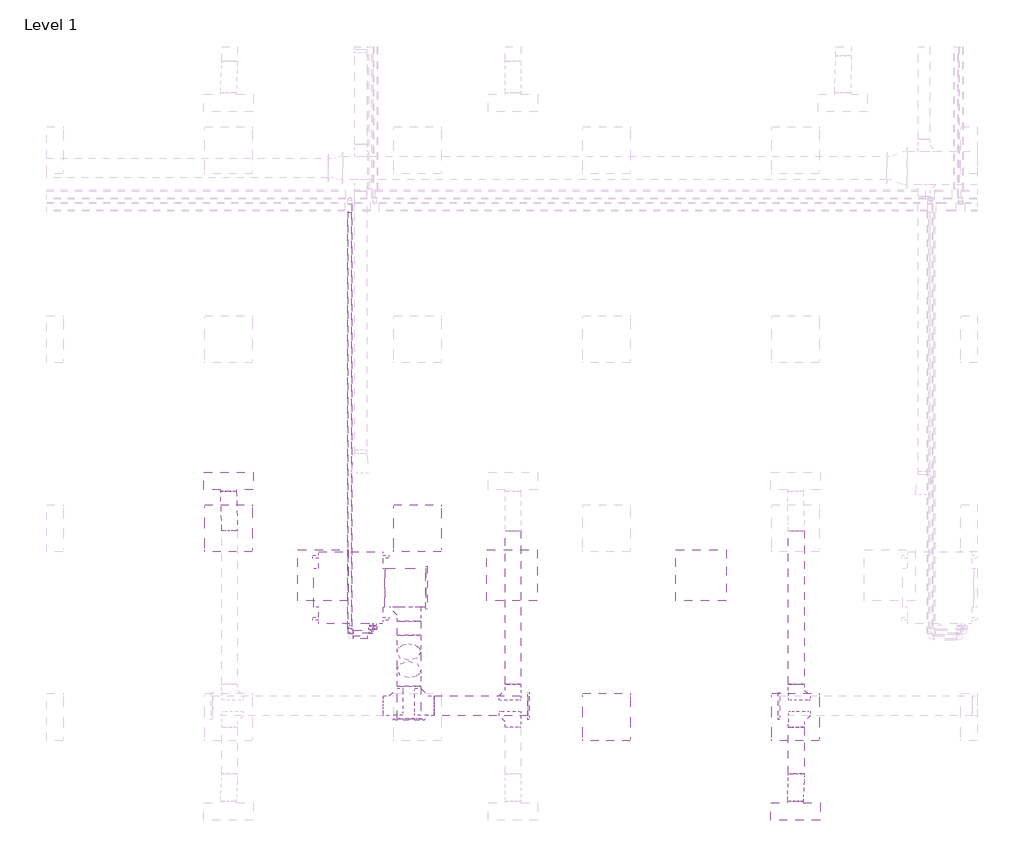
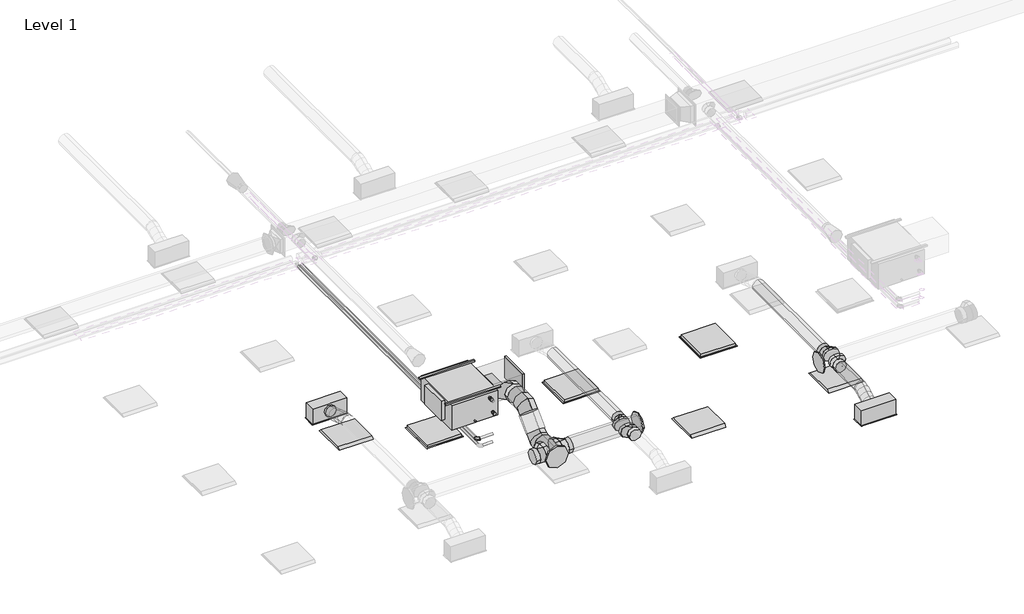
# One storey, part 7 of 30: 13 duct fittings, 10 duct segments, 6 pipe segments, 5 air terminals, 4 light fixtures, 3 pipe fittings, 1 proxy.
"""IFC4 building model written with IfcOpenShell, lengths in millimetres."""

from ifc_helpers import new_model, si_unit, point, frame, frame_2d, origin, place, context, project, spatial, polyline, circle_curve, ellipse_curve, trimmed, segment, composite_curve, outline, extrude, transform, mapped, element, save
from ifc_brep_helpers import plane_surface, cylinder_surface, advanced_brep
from components import return_grille_rectangular_hosted_standard_7b12617c, supply_diffuser_with_plenum_linear_slot_hosted_8c379eed, fan_coil_unit_ceiling_ducted_chw_376_lps_05d42c19, dw144_rectangular_blank_end_standard_8fde7d16, dw144_round_blank_end_standard_f82b0856, dw144_round_blank_end_standard_9aa061e7, dw144_round_segmented_bend_slip_joint_standard_8b80c5ae, dw144_round_shoe_branch_slip_joint1_standard_2_15a2edd8, dw144_round_shoe_branch_slip_joint1_standard_2_559552f4, dw144_round_shoe_branch_slip_joint1_standard_2_7ba9e4ed, dw144_round_shoe_branch_slip_joint1_standard_2_67b64720, light_fixture_1c7c1157, light_fixture_b730b5ca, elbow_threaded_gmi_standard_b4aa7741, socket_reducing_threaded_gmi_standard_0a4076b8

model = new_model("IFC4")

# Units and contexts
model_context = context("Model", 3, world=origin())
ifc_project = project(units=[si_unit("LENGTHUNIT", "METRE", prefix="MILLI")], contexts=[model_context])

# Site, building, storey
site = spatial("IfcSite", under=ifc_project)
building = spatial("IfcBuilding", under=site)
storey = spatial("IfcBuildingStorey", under=building, Name="Level 1", Elevation=3900.0)

# Air terminals
placement = place(None, origin())
return_grille_rectangular_hosted_standard_shape = return_grille_rectangular_hosted_standard_7b12617c(model_context)
element("IfcAirTerminal", 1, ObjectType="Return Grille - Rectangular - Hosted : Standard", at=placement, inside=storey, context=model_context, shape_type="MappedRepresentation", body=[
    mapped(return_grille_rectangular_hosted_standard_shape, transform((17562.2000027, 3963.2000004, 6700.0), x_axis=(1.0, 0.0, 0.0), y_axis=(0.0, -1.0, 0.0), z_axis=(0.0, 0.0, -1.0))),
])
element("IfcAirTerminal", 2, ObjectType="Return Grille - Rectangular - Hosted : Standard", at=placement, inside=storey, context=model_context, shape_type="MappedRepresentation", body=[
    mapped(return_grille_rectangular_hosted_standard_shape, transform((19962.2000027, 3963.2000004, 6700.0), x_axis=(1.0, 0.0, 0.0), y_axis=(0.0, -1.0, 0.0), z_axis=(0.0, 0.0, -1.0))),
])
element("IfcAirTerminal", 3, ObjectType="Return Grille - Rectangular - Hosted : Standard", at=placement, inside=storey, context=model_context, shape_type="MappedRepresentation", body=[
    mapped(return_grille_rectangular_hosted_standard_shape, transform((22362.2000027, 3963.2000004, 6700.0), x_axis=(0.0, -1.0, 0.0), y_axis=(-1.0, 0.0, 0.0), z_axis=(0.0, 0.0, -1.0))),
])
supply_diffuser_with_plenum_linear_slot_hosted_shape = supply_diffuser_with_plenum_linear_slot_hosted_8c379eed(model_context)
element("IfcAirTerminal", 4, ObjectType="Supply Diffuser with Plenum - Linear Slot - Hosted : 24\" x 8\"-200 In Inlet  4-Slot", at=placement, inside=storey, context=model_context, shape_type="MappedRepresentation", body=[
    mapped(supply_diffuser_with_plenum_linear_slot_hosted_shape, transform((23562.2000027, 963.2000004, 6700.0), x_axis=(1.0, 0.0, 0.0), y_axis=(0.0, -1.0, 0.0), z_axis=(0.0, 0.0, -1.0))),
])
element("IfcAirTerminal", 5, ObjectType="Supply Diffuser with Plenum - Linear Slot - Hosted : 24\" x 8\"-200 In Inlet  4-Slot", at=placement, inside=storey, context=model_context, shape_type="MappedRepresentation", body=[
    mapped(supply_diffuser_with_plenum_linear_slot_hosted_shape, transform((16362.2000027, 5163.2000004, 6700.0), x_axis=(-1.0, 0.0, 0.0), y_axis=(0.0, 1.0, 0.0), z_axis=(0.0, 0.0, -1.0))),
])

# Proxy
fan_coil_unit_ceiling_ducted_chw_376_lps_shape = fan_coil_unit_ceiling_ducted_chw_376_lps_05d42c19(model_context)
element("IfcBuildingElementProxy", 6, Name="Fan Coil Unit - Ceiling Ducted - CHW : 376 LPS", ObjectType="Fan Coil Unit - Ceiling Ducted - CHW : 376 LPS", at=placement, inside=storey, context=model_context, shape_type="MappedRepresentation", body=[
    mapped(fan_coil_unit_ceiling_ducted_chw_376_lps_shape, transform((18321.2561025, 4263.2000004, 7122.3911538), x_axis=(0.0, -1.0, 0.0), y_axis=(1.0, 0.0, 0.0), z_axis=(0.0, 0.0, 1.0))),
])

# Duct fittings
dw144_rectangular_blank_end_standard_shape = dw144_rectangular_blank_end_standard_8fde7d16(model_context)
element("IfcDuctFitting", 7, ObjectType="DW144 Rectangular Blank End : Standard", at=placement, inside=storey, context=model_context, shape_type="MappedRepresentation", body=[
    mapped(dw144_rectangular_blank_end_standard_shape, transform((18866.2561025, 3806.0000004, 7376.3911538), x_axis=(1.0, 0.0, 0.0), y_axis=(0.0, 1.0, 0.0), z_axis=(0.0, 0.0, 1.0))),
])
dw144_round_blank_end_standard_shape = dw144_round_blank_end_standard_f82b0856(model_context)
element("IfcDuctFitting", 8, ObjectType="DW144 Round Blank End : Standard", at=placement, inside=storey, context=model_context, shape_type="MappedRepresentation", body=[
    mapped(dw144_round_blank_end_standard_shape, transform((18651.4561025, 2142.9916128, 6972.2088531), x_axis=(0.0, -1.0, 0.0), y_axis=(1.0, 0.0, 0.0), z_axis=(0.0, 0.0, 1.0))),
])
dw144_round_blank_end_standard_2_shape = dw144_round_blank_end_standard_9aa061e7(model_context)
element("IfcDuctFitting", 9, ObjectType="DW144 Round Blank End : Standard", at=placement, inside=storey, context=model_context, shape_type="MappedRepresentation", body=[
    mapped(dw144_round_blank_end_standard_2_shape, transform((20161.4561025, 2306.5018192, 6972.2088531), x_axis=(1.0, 0.0, 0.0), y_axis=(0.0, 1.0, 0.0), z_axis=(0.0, 0.0, 1.0))),
])
element("IfcDuctFitting", 10, ObjectType="DW144 Round Blank End : Standard", at=placement, inside=storey, context=model_context, shape_type="MappedRepresentation", body=[
    mapped(dw144_round_blank_end_standard_2_shape, transform((23361.4561025, 2306.5018192, 6972.2088531), x_axis=(-1.0, 0.0, 0.0), y_axis=(0.0, -1.0, 0.0), z_axis=(0.0, 0.0, 1.0))),
])
dw144_round_segmented_bend_slip_joint_standard_shape = dw144_round_segmented_bend_slip_joint_standard_8b80c5ae(model_context)
element("IfcDuctFitting", 11, ObjectType="DW144 Round Segmented Bend - Slip Joint : Standard", at=placement, inside=storey, context=model_context, shape_type="MappedRepresentation", body=[
    mapped(dw144_round_segmented_bend_slip_joint_standard_shape, transform((18651.4561025, 2678.6338536, 6972.2088531), x_axis=(0.0, -0.7071067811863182, -0.7071067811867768), y_axis=(0.0, 0.7071067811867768, -0.7071067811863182), z_axis=(1.0, 0.0, 0.0))),
])
element("IfcDuctFitting", 12, ObjectType="DW144 Round Segmented Bend - Slip Joint : Standard", at=placement, inside=storey, context=model_context, shape_type="MappedRepresentation", body=[
    mapped(dw144_round_segmented_bend_slip_joint_standard_shape, transform((18651.4561025, 3076.0000004, 7369.575), x_axis=(0.0, -1.0, 0.0), y_axis=(0.0, 0.0, 1.0), z_axis=(-1.0, 0.0, 0.0))),
])
dw144_round_shoe_branch_slip_joint1_standard_2_shape = dw144_round_shoe_branch_slip_joint1_standard_2_15a2edd8(model_context)
element("IfcDuctFitting", 13, ObjectType="DW144 Round Shoe Branch - Slip Joint1 : Standard 2", at=placement, inside=storey, context=model_context, shape_type="MappedRepresentation", body=[
    mapped(dw144_round_shoe_branch_slip_joint1_standard_2_shape, transform((23573.9000022, 2181.5018192, 6972.2088531), x_axis=(0.0, -1.0, 0.0), y_axis=(-1.0, 0.0, 0.0), z_axis=(0.0, 0.0, -1.0))),
])
element("IfcDuctFitting", 14, ObjectType="DW144 Round Shoe Branch - Slip Joint1 : Standard 2", at=placement, inside=storey, context=model_context, shape_type="MappedRepresentation", body=[
    mapped(dw144_round_shoe_branch_slip_joint1_standard_2_shape, transform((23573.9000022, 2431.5018192, 6972.2088531), x_axis=(0.0, 1.0, 0.0), y_axis=(-1.0, 0.0, 0.0), z_axis=(0.0, 0.0, 1.0))),
])
dw144_round_shoe_branch_slip_joint1_standard_2_2_shape = dw144_round_shoe_branch_slip_joint1_standard_2_559552f4(model_context)
element("IfcDuctFitting", 15, ObjectType="DW144 Round Shoe Branch - Slip Joint1 : Standard 2", at=placement, inside=storey, context=model_context, shape_type="MappedRepresentation", body=[
    mapped(dw144_round_shoe_branch_slip_joint1_standard_2_2_shape, transform((19973.9000022, 2181.5018192, 6972.2088531), x_axis=(0.0, -1.0, 0.0), y_axis=(-1.0, 0.0, 0.0), z_axis=(0.0, 0.0, -1.0))),
])
element("IfcDuctFitting", 16, ObjectType="DW144 Round Shoe Branch - Slip Joint1 : Standard 2", at=placement, inside=storey, context=model_context, shape_type="MappedRepresentation", body=[
    mapped(dw144_round_shoe_branch_slip_joint1_standard_2_2_shape, transform((19973.9000022, 2431.5018192, 6972.2088531), x_axis=(0.0, 1.0, 0.0), y_axis=(-1.0, 0.0, 0.0), z_axis=(0.0, 0.0, 1.0))),
])
dw144_round_shoe_branch_slip_joint1_standard_2_3_shape = dw144_round_shoe_branch_slip_joint1_standard_2_7ba9e4ed(model_context)
element("IfcDuctFitting", 17, ObjectType="DW144 Round Shoe Branch - Slip Joint1 : Standard 2", at=placement, inside=storey, context=model_context, shape_type="MappedRepresentation", body=[
    mapped(dw144_round_shoe_branch_slip_joint1_standard_2_3_shape, transform((18651.4561025, 3556.0000004, 7369.575), x_axis=(0.0, -1.0, 0.0), y_axis=(-1.0, 0.0, 0.0), z_axis=(0.0, 0.0, -1.0))),
])
dw144_round_shoe_branch_slip_joint1_standard_2_4_shape = dw144_round_shoe_branch_slip_joint1_standard_2_67b64720(model_context)
element("IfcDuctFitting", 18, ObjectType="DW144 Round Shoe Branch - Slip Joint1 : Standard 2", at=placement, inside=storey, context=model_context, shape_type="MappedRepresentation", body=[
    mapped(dw144_round_shoe_branch_slip_joint1_standard_2_4_shape, transform((18801.4561025, 2306.5018192, 6972.2088531), x_axis=(1.0, 0.0, 0.0), y_axis=(0.0, -1.0, 0.0), z_axis=(0.0, 0.0, -1.0))),
])
element("IfcDuctFitting", 19, ObjectType="DW144 Round Shoe Branch - Slip Joint1 : Standard 2", at=placement, inside=storey, context=model_context, shape_type="MappedRepresentation", body=[
    mapped(dw144_round_shoe_branch_slip_joint1_standard_2_4_shape, transform((18501.4561025, 2306.5018192, 6972.2088531), x_axis=(-1.0, 0.0, 0.0), y_axis=(0.0, -1.0, 0.0), z_axis=(0.0, 0.0, 1.0))),
])

# Duct segments
element("IfcDuctSegment", 20, ObjectType="DW144 Flanged Med Radius Bend / Shoe Branch", at=placement, inside=storey, context=model_context, shape_type="SweptSolid", body=[
    extrude(outline(polyline([(18346.6561025, 3556.0000004), (18346.6561025, 4056.0000004), (18866.2561025, 4056.0000004), (18866.2561025, 3556.0000004), (18346.6561025, 3556.0000004)])), frame((0.0, 0.0, 7201.3911538), z_axis=(0.0, 0.0, 1.0), x_axis=(1.0, 0.0, 0.0)), (0.0, 0.0, 1.0), 350.0),
])
element("IfcDuctSegment", 21, ObjectType="DW144 Segmented Bend / Shoe Branch", at=placement, inside=storey, context=model_context, shape_type="SweptSolid", body=[
    extrude(outline(composite_curve([segment(trimmed(circle_curve(frame_2d((7369.575, 18651.4561025)), 150.0), [point((7369.575, 18501.4561025))], [point((7219.575, 18651.4561025))], False, "CARTESIAN"), True, "CONTINUOUS"), segment(trimmed(circle_curve(frame_2d((7369.575, 18651.4561025)), 150.0), [point((7219.575, 18651.4561025))], [point((7369.575, 18801.4561025))], False, "CARTESIAN"), True, "CONTINUOUS"), segment(trimmed(circle_curve(frame_2d((7369.575, 18651.4561025)), 150.0), [point((7369.575, 18801.4561025))], [point((7519.575, 18651.4561025))], False, "CARTESIAN"), True, "CONTINUOUS"), segment(trimmed(circle_curve(frame_2d((7369.575, 18651.4561025)), 150.0), [point((7519.575, 18651.4561025))], [point((7369.575, 18501.4561025))], False, "CARTESIAN"), True, "CONTINUOUS")], self_intersect=False)), frame((0.0, 3200.2640691, 0.0), z_axis=(0.0, 1.0, 0.0), x_axis=(0.0, 0.0, 1.0)), (0.0, 0.0, 1.0), 180.7359313),
])
element("IfcDuctSegment", 22, ObjectType="DW144 Segmented Bend / Shoe Branch", at=placement, inside=storey, context=model_context, shape_type="SweptSolid", body=[
    extrude(outline(composite_curve([segment(trimmed(circle_curve(frame_2d((6972.2088531, 18651.4561025)), 150.0), [point((6972.2088531, 18501.4561025))], [point((6822.2088531, 18651.4561025))], False, "CARTESIAN"), True, "CONTINUOUS"), segment(trimmed(circle_curve(frame_2d((6972.2088531, 18651.4561025)), 150.0), [point((6822.2088531, 18651.4561025))], [point((6972.2088531, 18801.4561025))], False, "CARTESIAN"), True, "CONTINUOUS"), segment(trimmed(circle_curve(frame_2d((6972.2088531, 18651.4561025)), 150.0), [point((6972.2088531, 18801.4561025))], [point((7122.2088531, 18651.4561025))], False, "CARTESIAN"), True, "CONTINUOUS"), segment(trimmed(circle_curve(frame_2d((6972.2088531, 18651.4561025)), 150.0), [point((7122.2088531, 18651.4561025))], [point((6972.2088531, 18501.4561025))], False, "CARTESIAN"), True, "CONTINUOUS")], self_intersect=False)), frame((0.0, 2142.9916128, 0.0), z_axis=(0.0, 1.0, 0.0), x_axis=(0.0, 0.0, 1.0)), (0.0, 0.0, 1.0), 411.3781721),
])
element("IfcDuctSegment", 23, ObjectType="DW144 Segmented Bend / Shoe Branch", at=placement, inside=storey, context=model_context, shape_type="SweptSolid", body=[
    extrude(outline(composite_curve([segment(trimmed(circle_curve(frame_2d((0.0, -150.0)), 150.0), [point((-150.0, -150.0))], [point((0.0, 0.0))], False, "CARTESIAN"), True, "CONTINUOUS"), segment(trimmed(circle_curve(frame_2d((0.0, -150.0)), 150.0), [point((0.0, 0.0))], [point((150.0, -150.0))], False, "CARTESIAN"), True, "CONTINUOUS"), segment(trimmed(circle_curve(frame_2d((0.0, -150.0)), 150.0), [point((150.0, -150.0))], [point((0.0, -300.0))], False, "CARTESIAN"), True, "CONTINUOUS"), segment(trimmed(circle_curve(frame_2d((0.0, -150.0)), 150.0), [point((0.0, -300.0))], [point((-150.0, -150.0))], False, "CARTESIAN"), True, "CONTINUOUS")], self_intersect=False)), frame((18651.4561025, 2872.5678364, 6954.0108016), z_axis=(0.0, 0.7071067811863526, 0.7071067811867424), x_axis=(1.0, 0.0, 0.0)), (0.0, 0.0, 1.0), 313.4324567),
])
element("IfcDuctSegment", 24, ObjectType="DW144 Segmented Bend / Shoe Branch", at=placement, inside=storey, context=model_context, shape_type="SweptSolid", body=[
    extrude(outline(composite_curve([segment(trimmed(circle_curve(frame_2d((2306.5018192, 6972.2088531)), 125.0), [point((2181.5018192, 6972.2088531))], [point((2306.5018192, 7097.2088531))], False, "CARTESIAN"), True, "CONTINUOUS"), segment(trimmed(circle_curve(frame_2d((2306.5018192, 6972.2088531)), 125.0), [point((2306.5018192, 7097.2088531))], [point((2431.5018192, 6972.2088531))], False, "CARTESIAN"), True, "CONTINUOUS"), segment(trimmed(circle_curve(frame_2d((2306.5018192, 6972.2088531)), 125.0), [point((2431.5018192, 6972.2088531))], [point((2306.5018192, 6847.2088531))], False, "CARTESIAN"), True, "CONTINUOUS"), segment(trimmed(circle_curve(frame_2d((2306.5018192, 6972.2088531)), 125.0), [point((2306.5018192, 6847.2088531))], [point((2181.5018192, 6972.2088531))], False, "CARTESIAN"), True, "CONTINUOUS")], self_intersect=False)), frame((18976.4561025, 0.0, 0.0), z_axis=(1.0, 0.0, 0.0), x_axis=(0.0, 1.0, 0.0)), (0.0, 0.0, 1.0), 1185.0),
])
element("IfcDuctSegment", 25, ObjectType="DW144 Segmented Bend / Shoe Branch", at=placement, inside=storey, context=model_context, shape_type="SweptSolid", body=[
    extrude(outline(composite_curve([segment(trimmed(circle_curve(frame_2d((6972.2088531, 19973.9000022)), 100.0), [point((6972.2088531, 20073.9000022))], [point((7072.2088531, 19973.9000022))], False, "CARTESIAN"), True, "CONTINUOUS"), segment(trimmed(circle_curve(frame_2d((6972.2088531, 19973.9000022)), 100.0), [point((7072.2088531, 19973.9000022))], [point((6972.2088531, 19873.9000022))], False, "CARTESIAN"), True, "CONTINUOUS"), segment(trimmed(circle_curve(frame_2d((6972.2088531, 19973.9000022)), 100.0), [point((6972.2088531, 19873.9000022))], [point((6872.2088531, 19973.9000022))], False, "CARTESIAN"), True, "CONTINUOUS"), segment(trimmed(circle_curve(frame_2d((6972.2088531, 19973.9000022)), 100.0), [point((6872.2088531, 19973.9000022))], [point((6972.2088531, 20073.9000022))], False, "CARTESIAN"), True, "CONTINUOUS")], self_intersect=False)), frame((0.0, 2581.5018192, 0.0), z_axis=(0.0, 1.0, 0.0), x_axis=(0.0, 0.0, 1.0)), (0.0, 0.0, 1.0), 1950.0),
])
element("IfcDuctSegment", 26, ObjectType="DW144 Segmented Bend / Shoe Branch", at=placement, inside=storey, context=model_context, shape_type="SweptSolid", body=[
    extrude(outline(composite_curve([segment(trimmed(circle_curve(frame_2d((6972.2088531, 23573.9000022)), 100.0), [point((6972.2088531, 23673.9000022))], [point((7072.2088531, 23573.9000022))], False, "CARTESIAN"), True, "CONTINUOUS"), segment(trimmed(circle_curve(frame_2d((6972.2088531, 23573.9000022)), 100.0), [point((7072.2088531, 23573.9000022))], [point((6972.2088531, 23473.9000022))], False, "CARTESIAN"), True, "CONTINUOUS"), segment(trimmed(circle_curve(frame_2d((6972.2088531, 23573.9000022)), 100.0), [point((6972.2088531, 23473.9000022))], [point((6872.2088531, 23573.9000022))], False, "CARTESIAN"), True, "CONTINUOUS"), segment(trimmed(circle_curve(frame_2d((6972.2088531, 23573.9000022)), 100.0), [point((6872.2088531, 23573.9000022))], [point((6972.2088531, 23673.9000022))], False, "CARTESIAN"), True, "CONTINUOUS")], self_intersect=False)), frame((0.0, 1441.5018192, 0.0), z_axis=(0.0, 1.0, 0.0), x_axis=(0.0, 0.0, 1.0)), (0.0, 0.0, 1.0), 590.0),
])
element("IfcDuctSegment", 27, ObjectType="DW144 Segmented Bend / Shoe Branch", at=placement, inside=storey, context=model_context, shape_type="SweptSolid", body=[
    extrude(outline(composite_curve([segment(trimmed(circle_curve(frame_2d((6972.2088531, 23573.9000022)), 100.0), [point((6972.2088531, 23673.9000022))], [point((7072.2088531, 23573.9000022))], False, "CARTESIAN"), True, "CONTINUOUS"), segment(trimmed(circle_curve(frame_2d((6972.2088531, 23573.9000022)), 100.0), [point((7072.2088531, 23573.9000022))], [point((6972.2088531, 23473.9000022))], False, "CARTESIAN"), True, "CONTINUOUS"), segment(trimmed(circle_curve(frame_2d((6972.2088531, 23573.9000022)), 100.0), [point((6972.2088531, 23473.9000022))], [point((6872.2088531, 23573.9000022))], False, "CARTESIAN"), True, "CONTINUOUS"), segment(trimmed(circle_curve(frame_2d((6972.2088531, 23573.9000022)), 100.0), [point((6872.2088531, 23573.9000022))], [point((6972.2088531, 23673.9000022))], False, "CARTESIAN"), True, "CONTINUOUS")], self_intersect=False)), frame((0.0, 2581.5018192, 0.0), z_axis=(0.0, 1.0, 0.0), x_axis=(0.0, 0.0, 1.0)), (0.0, 0.0, 1.0), 1950.0),
])
element("IfcDuctSegment", 28, ObjectType="Flex - Round", at=placement, inside=storey, context=model_context, shape_type="AdvancedBrep", body=[
    advanced_brep(
    [(16273.9000022, 4531.5018192, 6972.2088531), (16373.9000022, 4531.5018192, 6872.2088531), (16473.9000022, 4531.5018192, 6972.2088531), (16373.9000022, 4531.5018192, 7072.2088531), (16273.9000022, 4545.0398748, 6972.2088531), (16373.9000022, 4537.729612, 6872.2088531), (16473.9000022, 4546.6519942, 6972.2088531), (16373.9000022, 4553.962257, 7072.2088531), (16262.2000027, 5034.3000004, 6854.4), (16362.2000027, 5034.3000004, 6954.4), (16462.2000027, 5034.3000004, 6854.4), (16362.2000027, 5034.3000004, 6754.4), (16272.0969471, 4656.1396088, 6954.0536514), (16372.3243089, 4634.8198875, 6856.3429867), (16472.0468075, 4660.8412095, 6953.5487883), (16371.8194457, 4682.1609309, 7051.2594529), (16268.0984043, 4779.8283707, 6913.7917909), (16368.5373668, 4751.9631047, 6818.2117629), (16468.0016006, 4785.9734489, 6912.8170622), (16367.5626381, 4813.8387149, 7008.3970903), (16264.0531974, 4904.9606101, 6873.0600649), (16364.2805591, 4883.6408888, 6775.3494002), (16464.0030578, 4909.6622108, 6872.5552017), (16363.775696, 4930.9819322, 6970.2658664), (16262.2000027, 5019.1498254, 6854.4), (16362.2000027, 5011.8395627, 6754.4), (16462.2000027, 5020.7619448, 6854.4), (16362.2000027, 5028.0722076, 6954.4)],
    [
        (0, 1, circle_curve(frame((16373.9000022, 4531.5018192, 6972.2088531), z_axis=(0.0, -1.0, 0.0), x_axis=(-1.0, 0.0, 0.0)), 100.0)),
        (1, 2, circle_curve(frame((16373.9000022, 4531.5018192, 6972.2088531), z_axis=(0.0, -1.0, 0.0), x_axis=(-1.0, 0.0, 0.0)), 100.0)),
        (2, 3, circle_curve(frame((16373.9000022, 4531.5018192, 6972.2088531), z_axis=(0.0, -1.0, 0.0), x_axis=(-1.0, 0.0, 0.0)), 100.0)),
        (3, 0, circle_curve(frame((16373.9000022, 4531.5018192, 6972.2088531), z_axis=(0.0, -1.0, 0.0), x_axis=(-1.0, 0.0, 0.0)), 100.0)),
        (0, 4),
        (4, 5, ellipse_curve(frame((16373.9000022, 4545.8459345, 6972.2088531), z_axis=(0.008033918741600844, -0.9966902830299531, 0.08089459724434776), x_axis=(-0.09850014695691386, -0.08129255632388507, -0.9918110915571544)), 100.3320708, 100.0)),
        (5, 1),
        (5, 6, ellipse_curve(frame((16373.9000022, 4545.8459345, 6972.2088531), z_axis=(0.008033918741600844, -0.9966902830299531, 0.08089459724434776), x_axis=(-0.09850014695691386, -0.08129255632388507, -0.9918110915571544)), 100.3320708, 100.0)),
        (6, 2),
        (6, 7, ellipse_curve(frame((16373.9000022, 4545.8459345, 6972.2088531), z_axis=(0.008033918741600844, -0.9966902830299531, 0.08089459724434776), x_axis=(-0.09850014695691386, -0.08129255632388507, -0.9918110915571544)), 100.3320708, 100.0)),
        (7, 3),
        (7, 4, ellipse_curve(frame((16373.9000022, 4545.8459345, 6972.2088531), z_axis=(0.008033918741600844, -0.9966902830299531, 0.08089459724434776), x_axis=(-0.09850014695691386, -0.08129255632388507, -0.9918110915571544)), 100.3320708, 100.0)),
        (8, 9, circle_curve(frame((16362.2000027, 5034.3000004, 6854.4), z_axis=(0.0, 1.0, 0.0), x_axis=(-1.0, 0.0, 0.0)), 100.0)),
        (9, 10, circle_curve(frame((16362.2000027, 5034.3000004, 6854.4), z_axis=(0.0, 1.0, 0.0), x_axis=(-1.0, 0.0, 0.0)), 100.0)),
        (10, 11, circle_curve(frame((16362.2000027, 5034.3000004, 6854.4), z_axis=(0.0, 1.0, 0.0), x_axis=(-1.0, 0.0, 0.0)), 100.0)),
        (11, 8, circle_curve(frame((16362.2000027, 5034.3000004, 6854.4), z_axis=(0.0, 1.0, 0.0), x_axis=(-1.0, 0.0, 0.0)), 100.0)),
        (4, 12),
        (12, 13, ellipse_curve(frame((16372.0718773, 4658.4904092, 6953.8012198), z_axis=(0.023438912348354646, -0.9714680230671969, 0.2360095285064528), x_axis=(-0.09600750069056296, -0.23717057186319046, -0.9667123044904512)), 100.2947714, 100.0)),
        (13, 5),
        (13, 14, ellipse_curve(frame((16372.0718773, 4658.4904092, 6953.8012198), z_axis=(0.023438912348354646, -0.9714680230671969, 0.2360095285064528), x_axis=(-0.09600750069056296, -0.23717057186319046, -0.9667123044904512)), 100.2947714, 100.0)),
        (14, 6),
        (14, 15, ellipse_curve(frame((16372.0718773, 4658.4904092, 6953.8012198), z_axis=(0.023438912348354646, -0.9714680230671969, 0.2360095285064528), x_axis=(-0.09600750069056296, -0.23717057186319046, -0.9667123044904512)), 100.2947714, 100.0)),
        (15, 7),
        (15, 12, ellipse_curve(frame((16372.0718773, 4658.4904092, 6953.8012198), z_axis=(0.023438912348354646, -0.9714680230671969, 0.2360095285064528), x_axis=(-0.09600750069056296, -0.23717057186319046, -0.9667123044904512)), 100.2947714, 100.0)),
        (12, 16),
        (16, 17, circle_curve(frame((16368.0500024, 4782.9009098, 6913.3044266), z_axis=(0.03072539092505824, -0.9504426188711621, 0.30937805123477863), x_axis=(-0.999515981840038, -0.030725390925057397, 0.004873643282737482)), 100.0)),
        (17, 13),
        (17, 18, circle_curve(frame((16368.0500024, 4782.9009098, 6913.3044266), z_axis=(0.03072539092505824, -0.9504426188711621, 0.30937805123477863), x_axis=(-0.999515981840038, -0.030725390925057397, 0.004873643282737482)), 100.0)),
        (18, 14),
        (18, 19, circle_curve(frame((16368.0500024, 4782.9009098, 6913.3044266), z_axis=(0.03072539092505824, -0.9504426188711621, 0.30937805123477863), x_axis=(-0.999515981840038, -0.030725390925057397, 0.004873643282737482)), 100.0)),
        (19, 15),
        (19, 16, circle_curve(frame((16368.0500024, 4782.9009098, 6913.3044266), z_axis=(0.03072539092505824, -0.9504426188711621, 0.30937805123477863), x_axis=(-0.999515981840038, -0.030725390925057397, 0.004873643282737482)), 100.0)),
        (16, 20),
        (20, 21, ellipse_curve(frame((16364.0281276, 4907.3114105, 6872.8076333), z_axis=(0.023438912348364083, -0.9714680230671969, 0.23600952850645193), x_axis=(0.0960075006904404, 0.23717057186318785, 0.966712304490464)), 100.2947714, 100.0)),
        (21, 17),
        (21, 22, ellipse_curve(frame((16364.0281276, 4907.3114105, 6872.8076333), z_axis=(0.023438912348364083, -0.9714680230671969, 0.23600952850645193), x_axis=(0.0960075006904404, 0.23717057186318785, 0.966712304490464)), 100.2947714, 100.0)),
        (22, 18),
        (22, 23, ellipse_curve(frame((16364.0281276, 4907.3114105, 6872.8076333), z_axis=(0.023438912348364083, -0.9714680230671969, 0.23600952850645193), x_axis=(0.0960075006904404, 0.23717057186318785, 0.966712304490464)), 100.2947714, 100.0)),
        (23, 19),
        (23, 20, ellipse_curve(frame((16364.0281276, 4907.3114105, 6872.8076333), z_axis=(0.023438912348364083, -0.9714680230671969, 0.23600952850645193), x_axis=(0.0960075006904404, 0.23717057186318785, 0.966712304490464)), 100.2947714, 100.0)),
        (20, 24),
        (24, 25, ellipse_curve(frame((16362.2000027, 5019.9558851, 6854.4), z_axis=(0.008033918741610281, -0.9966902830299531, 0.08089459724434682), x_axis=(0.09850014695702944, 0.0812925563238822, 0.9918110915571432)), 100.3320708, 100.0)),
        (25, 21),
        (25, 26, ellipse_curve(frame((16362.2000027, 5019.9558851, 6854.4), z_axis=(0.008033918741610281, -0.9966902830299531, 0.08089459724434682), x_axis=(0.09850014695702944, 0.0812925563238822, 0.9918110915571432)), 100.3320708, 100.0)),
        (26, 22),
        (26, 27, ellipse_curve(frame((16362.2000027, 5019.9558851, 6854.4), z_axis=(0.008033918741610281, -0.9966902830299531, 0.08089459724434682), x_axis=(0.09850014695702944, 0.0812925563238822, 0.9918110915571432)), 100.3320708, 100.0)),
        (27, 23),
        (27, 24, ellipse_curve(frame((16362.2000027, 5019.9558851, 6854.4), z_axis=(0.008033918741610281, -0.9966902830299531, 0.08089459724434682), x_axis=(0.09850014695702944, 0.0812925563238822, 0.9918110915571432)), 100.3320708, 100.0)),
        (24, 8),
        (11, 25),
        (10, 26),
        (9, 27),
    ],
    [
        plane_surface(frame((16273.9000022, 4531.5018192, 6972.2088531), z_axis=(0.0, -1.0, 0.0), x_axis=(0.0, 0.0, 1.0))),
        cylinder_surface(frame((16373.9000022, 4531.5018192, 6972.2088531), z_axis=(0.0, -1.0, 0.0), x_axis=(-1.0, 0.0, 0.0)), 100.0),
        plane_surface(frame((16262.2000027, 5034.3000004, 6854.4), z_axis=(0.0, 1.0, 0.0), x_axis=(0.0, 0.0, 1.0))),
        cylinder_surface(frame((16373.9000022, 4545.8459345, 6972.2088531), z_axis=(0.01601465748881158, -0.9867830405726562, 0.16125371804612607), x_axis=(-0.9998709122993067, -0.01601465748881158, 0.0012998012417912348)), 100.0),
        cylinder_surface(frame((16372.0718773, 4658.4904092, 6953.8012198), z_axis=(0.03072539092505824, -0.9504426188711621, 0.30937805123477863), x_axis=(-0.999515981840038, -0.030725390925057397, 0.004873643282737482)), 100.0),
        cylinder_surface(frame((16368.0500024, 4782.9009098, 6913.3044266), z_axis=(0.030725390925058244, -0.9504426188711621, 0.30937805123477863), x_axis=(-0.999515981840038, -0.0307253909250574, 0.0048736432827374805)), 100.0),
        cylinder_surface(frame((16364.0281276, 4907.3114105, 6872.8076333), z_axis=(0.016014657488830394, -0.9867830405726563, 0.16125371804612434), x_axis=(-0.9998709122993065, -0.016014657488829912, 0.0012998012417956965)), 100.0),
        cylinder_surface(frame((16362.2000027, 5019.9558851, 6854.4), z_axis=(0.0, -1.0, 0.0), x_axis=(-1.0, 0.0, 0.0)), 100.0),
    ],
    [
        (0, [[1, 2, 3, 4]]),
        (1, [[-1, 5, 6, 7]]),
        (1, [[-2, -7, 8, 9]]),
        (1, [[-3, -9, 10, 11]]),
        (1, [[-4, -11, 12, -5]]),
        (2, [[13, 14, 15, 16]]),
        (3, [[-6, 17, 18, 19]]),
        (3, [[-8, -19, 20, 21]]),
        (3, [[-10, -21, 22, 23]]),
        (3, [[-12, -23, 24, -17]]),
        (4, [[-18, 25, 26, 27]]),
        (4, [[-20, -27, 28, 29]]),
        (4, [[-22, -29, 30, 31]]),
        (4, [[-24, -31, 32, -25]]),
        (5, [[-26, 33, 34, 35]]),
        (5, [[-28, -35, 36, 37]]),
        (5, [[-30, -37, 38, 39]]),
        (5, [[-32, -39, 40, -33]]),
        (6, [[-34, 41, 42, 43]]),
        (6, [[-36, -43, 44, 45]]),
        (6, [[-38, -45, 46, 47]]),
        (6, [[-40, -47, 48, -41]]),
        (7, [[-42, 49, -16, 50]]),
        (7, [[-44, -50, -15, 51]]),
        (7, [[-46, -51, -14, 52]]),
        (7, [[-48, -52, -13, -49]]),
    ],
),
])
element("IfcDuctSegment", 29, ObjectType="Flex - Round", at=placement, inside=storey, context=model_context, shape_type="AdvancedBrep", body=[
    advanced_brep(
    [(23673.9000022, 1441.5018192, 6972.2088531), (23573.9000022, 1441.5018192, 6872.2088531), (23473.9000022, 1441.5018192, 6972.2088531), (23573.9000022, 1441.5018192, 7072.2088531), (23673.9000022, 1419.9886644, 6972.2088531), (23573.9000022, 1434.4041273, 6872.2088531), (23473.9000022, 1422.5932881, 6972.2088531), (23573.9000022, 1408.1778252, 7072.2088531), (23662.2000027, 1092.1000004, 6854.4), (23562.2000027, 1092.1000004, 6954.4), (23462.2000027, 1092.1000004, 6854.4), (23562.2000027, 1092.1000004, 6754.4), (23672.0154345, 1348.8904029, 6953.2328893), (23572.6402079, 1386.8764181, 6859.5238159), (23472.1283201, 1355.7538157, 6954.3695504), (23571.5035467, 1317.7678004, 7048.0786237), (23667.9552415, 1262.5544078, 6912.3502664), (23569.0041626, 1309.5595036, 6822.9119919), (23468.1447633, 1271.0474118, 6914.2585867), (23567.0958423, 1224.0423161, 7003.6968612), (23663.9716847, 1177.8480039, 6872.2393027), (23564.5964582, 1215.8340192, 6778.5302294), (23464.0845704, 1184.7114168, 6873.3759639), (23563.459797, 1146.7254015, 6967.0850372), (23662.2000027, 1111.0085316, 6854.4), (23562.2000027, 1125.4239944, 6754.4), (23462.2000027, 1113.6131552, 6854.4), (23562.2000027, 1099.1976924, 6954.4)],
    [
        (0, 1, circle_curve(frame((23573.9000022, 1441.5018192, 6972.2088531), z_axis=(0.0, 1.0, 0.0), x_axis=(1.0, 0.0, 0.0)), 100.0)),
        (1, 2, circle_curve(frame((23573.9000022, 1441.5018192, 6972.2088531), z_axis=(0.0, 1.0, 0.0), x_axis=(1.0, 0.0, 0.0)), 100.0)),
        (2, 3, circle_curve(frame((23573.9000022, 1441.5018192, 6972.2088531), z_axis=(0.0, 1.0, 0.0), x_axis=(1.0, 0.0, 0.0)), 100.0)),
        (3, 0, circle_curve(frame((23573.9000022, 1441.5018192, 6972.2088531), z_axis=(0.0, 1.0, 0.0), x_axis=(1.0, 0.0, 0.0)), 100.0)),
        (0, 4),
        (4, 5, ellipse_curve(frame((23573.9000022, 1421.2909763, 6972.2088531), z_axis=(0.012911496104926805, 0.991428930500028, 0.13000757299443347), x_axis=(-0.0979801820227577, 0.13064714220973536, -0.986575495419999)), 100.8645168, 100.0)),
        (5, 1),
        (5, 6, ellipse_curve(frame((23573.9000022, 1421.2909763, 6972.2088531), z_axis=(0.012911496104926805, 0.991428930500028, 0.13000757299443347), x_axis=(-0.0979801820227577, 0.13064714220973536, -0.986575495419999)), 100.8645168, 100.0)),
        (6, 2),
        (6, 7, ellipse_curve(frame((23573.9000022, 1421.2909763, 6972.2088531), z_axis=(0.012911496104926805, 0.991428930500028, 0.13000757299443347), x_axis=(-0.0979801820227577, 0.13064714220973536, -0.986575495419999)), 100.8645168, 100.0)),
        (7, 3),
        (7, 4, ellipse_curve(frame((23573.9000022, 1421.2909763, 6972.2088531), z_axis=(0.012911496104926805, 0.991428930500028, 0.13000757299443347), x_axis=(-0.0979801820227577, 0.13064714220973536, -0.986575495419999)), 100.8645168, 100.0)),
        (8, 9, circle_curve(frame((23562.2000027, 1092.1000004, 6854.4), z_axis=(0.0, -1.0, 0.0), x_axis=(1.0, 0.0, 0.0)), 100.0)),
        (9, 10, circle_curve(frame((23562.2000027, 1092.1000004, 6854.4), z_axis=(0.0, -1.0, 0.0), x_axis=(1.0, 0.0, 0.0)), 100.0)),
        (10, 11, circle_curve(frame((23562.2000027, 1092.1000004, 6854.4), z_axis=(0.0, -1.0, 0.0), x_axis=(1.0, 0.0, 0.0)), 100.0)),
        (11, 8, circle_curve(frame((23562.2000027, 1092.1000004, 6854.4), z_axis=(0.0, -1.0, 0.0), x_axis=(1.0, 0.0, 0.0)), 100.0)),
        (4, 12),
        (12, 13, ellipse_curve(frame((23572.0718773, 1352.3221093, 6953.8012198), z_axis=(0.03417490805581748, 0.9383065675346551, 0.34411169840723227), x_axis=(-0.09273024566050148, 0.34580454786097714, -0.9337131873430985)), 100.4159667, 100.0)),
        (13, 5),
        (13, 14, ellipse_curve(frame((23572.0718773, 1352.3221093, 6953.8012198), z_axis=(0.03417490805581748, 0.9383065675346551, 0.34411169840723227), x_axis=(-0.09273024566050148, 0.34580454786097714, -0.9337131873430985)), 100.4159667, 100.0)),
        (14, 6),
        (14, 15, ellipse_curve(frame((23572.0718773, 1352.3221093, 6953.8012198), z_axis=(0.03417490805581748, 0.9383065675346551, 0.34411169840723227), x_axis=(-0.09273024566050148, 0.34580454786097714, -0.9337131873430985)), 100.4159667, 100.0)),
        (15, 7),
        (15, 12, ellipse_curve(frame((23572.0718773, 1352.3221093, 6953.8012198), z_axis=(0.03417490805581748, 0.9383065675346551, 0.34411169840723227), x_axis=(-0.09273024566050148, 0.34580454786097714, -0.9337131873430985)), 100.4159667, 100.0)),
        (12, 16),
        (16, 17, circle_curve(frame((23568.0500024, 1266.8009098, 6913.3044266), z_axis=(0.042465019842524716, 0.9029767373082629, 0.42758593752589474), x_axis=(0.9990523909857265, -0.042465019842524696, -0.009541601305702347)), 100.0)),
        (17, 13),
        (17, 18, circle_curve(frame((23568.0500024, 1266.8009098, 6913.3044266), z_axis=(0.042465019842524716, 0.9029767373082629, 0.42758593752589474), x_axis=(0.9990523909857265, -0.042465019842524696, -0.009541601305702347)), 100.0)),
        (18, 14),
        (18, 19, circle_curve(frame((23568.0500024, 1266.8009098, 6913.3044266), z_axis=(0.042465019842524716, 0.9029767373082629, 0.42758593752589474), x_axis=(0.9990523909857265, -0.042465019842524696, -0.009541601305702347)), 100.0)),
        (19, 15),
        (19, 16, circle_curve(frame((23568.0500024, 1266.8009098, 6913.3044266), z_axis=(0.042465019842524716, 0.9029767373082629, 0.42758593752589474), x_axis=(0.9990523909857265, -0.042465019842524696, -0.009541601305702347)), 100.0)),
        (16, 20),
        (20, 21, ellipse_curve(frame((23564.0281276, 1181.2797104, 6872.8076333), z_axis=(0.034174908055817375, 0.9383065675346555, 0.3441116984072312), x_axis=(0.09273024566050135, -0.345804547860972, 0.9337131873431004)), 100.4159667, 100.0)),
        (21, 17),
        (21, 22, ellipse_curve(frame((23564.0281276, 1181.2797104, 6872.8076333), z_axis=(0.034174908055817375, 0.9383065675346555, 0.3441116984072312), x_axis=(0.09273024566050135, -0.345804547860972, 0.9337131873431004)), 100.4159667, 100.0)),
        (22, 18),
        (22, 23, ellipse_curve(frame((23564.0281276, 1181.2797104, 6872.8076333), z_axis=(0.034174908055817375, 0.9383065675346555, 0.3441116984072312), x_axis=(0.09273024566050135, -0.345804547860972, 0.9337131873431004)), 100.4159667, 100.0)),
        (23, 19),
        (23, 20, ellipse_curve(frame((23564.0281276, 1181.2797104, 6872.8076333), z_axis=(0.034174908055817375, 0.9383065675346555, 0.3441116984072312), x_axis=(0.09273024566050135, -0.345804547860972, 0.9337131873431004)), 100.4159667, 100.0)),
        (20, 24),
        (24, 25, ellipse_curve(frame((23562.2000027, 1112.3108434, 6854.4), z_axis=(0.012911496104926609, 0.9914289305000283, 0.13000757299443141), x_axis=(0.09798018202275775, -0.1306471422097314, 0.9865754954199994)), 100.8645168, 100.0)),
        (25, 21),
        (25, 26, ellipse_curve(frame((23562.2000027, 1112.3108434, 6854.4), z_axis=(0.012911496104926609, 0.9914289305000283, 0.13000757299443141), x_axis=(0.09798018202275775, -0.1306471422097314, 0.9865754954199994)), 100.8645168, 100.0)),
        (26, 22),
        (26, 27, ellipse_curve(frame((23562.2000027, 1112.3108434, 6854.4), z_axis=(0.012911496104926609, 0.9914289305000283, 0.13000757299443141), x_axis=(0.09798018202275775, -0.1306471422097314, 0.9865754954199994)), 100.8645168, 100.0)),
        (27, 23),
        (27, 24, ellipse_curve(frame((23562.2000027, 1112.3108434, 6854.4), z_axis=(0.012911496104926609, 0.9914289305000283, 0.13000757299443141), x_axis=(0.09798018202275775, -0.1306471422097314, 0.9865754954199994)), 100.8645168, 100.0)),
        (24, 8),
        (11, 25),
        (10, 26),
        (9, 27),
    ],
    [
        plane_surface(frame((23473.9000022, 1441.5018192, 6972.2088531), z_axis=(0.0, 1.0, 0.0), x_axis=(0.0, 0.0, -1.0))),
        cylinder_surface(frame((23573.9000022, 1441.5018192, 6972.2088531), z_axis=(0.0, 1.0, 0.0), x_axis=(1.0, 0.0, 0.0)), 100.0),
        plane_surface(frame((23462.2000027, 1092.1000004, 6854.4), z_axis=(0.0, -1.0, 0.0), x_axis=(0.0, 0.0, -1.0))),
        cylinder_surface(frame((23573.9000022, 1421.2909763, 6972.2088531), z_axis=(0.025601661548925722, 0.9658626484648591, 0.25778653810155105), x_axis=(0.999666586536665, -0.025601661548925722, -0.00335718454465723)), 100.0),
        cylinder_surface(frame((23572.0718773, 1352.3221093, 6953.8012198), z_axis=(0.042465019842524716, 0.9029767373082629, 0.42758593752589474), x_axis=(0.9990523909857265, -0.042465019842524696, -0.009541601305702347)), 100.0),
        cylinder_surface(frame((23568.0500024, 1266.8009098, 6913.3044266), z_axis=(0.042465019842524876, 0.9029767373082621, 0.42758593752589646), x_axis=(0.9990523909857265, -0.04246501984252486, -0.009541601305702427)), 100.0),
        cylinder_surface(frame((23564.0281276, 1181.2797104, 6872.8076333), z_axis=(0.02560166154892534, 0.9658626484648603, 0.2577865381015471), x_axis=(0.9996665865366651, -0.02560166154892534, -0.0033571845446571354)), 100.0),
        cylinder_surface(frame((23562.2000027, 1112.3108434, 6854.4), z_axis=(0.0, 1.0, 0.0), x_axis=(1.0, 0.0, 0.0)), 100.0),
    ],
    [
        (0, [[1, 2, 3, 4]]),
        (1, [[-1, 5, 6, 7]]),
        (1, [[-2, -7, 8, 9]]),
        (1, [[-3, -9, 10, 11]]),
        (1, [[-4, -11, 12, -5]]),
        (2, [[13, 14, 15, 16]]),
        (3, [[-6, 17, 18, 19]]),
        (3, [[-8, -19, 20, 21]]),
        (3, [[-10, -21, 22, 23]]),
        (3, [[-12, -23, 24, -17]]),
        (4, [[-18, 25, 26, 27]]),
        (4, [[-20, -27, 28, 29]]),
        (4, [[-22, -29, 30, 31]]),
        (4, [[-24, -31, 32, -25]]),
        (5, [[-26, 33, 34, 35]]),
        (5, [[-28, -35, 36, 37]]),
        (5, [[-30, -37, 38, 39]]),
        (5, [[-32, -39, 40, -33]]),
        (6, [[-34, 41, 42, 43]]),
        (6, [[-36, -43, 44, 45]]),
        (6, [[-38, -45, 46, 47]]),
        (6, [[-40, -47, 48, -41]]),
        (7, [[-42, 49, -16, 50]]),
        (7, [[-44, -50, -15, 51]]),
        (7, [[-46, -51, -14, 52]]),
        (7, [[-48, -52, -13, -49]]),
    ],
),
])

# Light fixtures
light_fixture_shape = light_fixture_1c7c1157(model_context)
element("IfcLightFixture", 30, ObjectType="ELEKTRA Plain Recessed Lighting Fixture : 24\" x 24\" - 230", at=placement, inside=storey, context=model_context, shape_type="MappedRepresentation", body=[
    mapped(light_fixture_shape, transform((20862.2000027, 1863.2000003, 6700.0), x_axis=(1.0, 0.0, 0.0), y_axis=(0.0, -1.0, 0.0), z_axis=(0.0, 0.0, -1.0))),
])
element("IfcLightFixture", 31, ObjectType="ELEKTRA Plain Recessed Lighting Fixture : 24\" x 24\" - 230", at=placement, inside=storey, context=model_context, shape_type="MappedRepresentation", body=[
    mapped(light_fixture_shape, transform((23262.2000027, 1863.2000003, 6700.0), x_axis=(1.0, 0.0, 0.0), y_axis=(0.0, -1.0, 0.0), z_axis=(0.0, 0.0, -1.0))),
])
element("IfcLightFixture", 32, ObjectType="ELEKTRA Plain Recessed Lighting Fixture : 24\" x 24\" - 230", at=placement, inside=storey, context=model_context, shape_type="MappedRepresentation", body=[
    mapped(light_fixture_shape, transform((16062.2000027, 4263.2000003, 6700.0), x_axis=(1.0, 0.0, 0.0), y_axis=(0.0, -1.0, 0.0), z_axis=(0.0, 0.0, -1.0))),
])
light_fixture_2_shape = light_fixture_b730b5ca(model_context)
element("IfcLightFixture", 33, ObjectType="ELEKTRA EM Recessed Lighting Fixture : 24\" x 24\" - 230", at=placement, inside=storey, context=model_context, shape_type="MappedRepresentation", body=[
    mapped(light_fixture_2_shape, transform((18462.2000027, 4263.2000003, 6700.0), x_axis=(1.0, 0.0, 0.0), y_axis=(0.0, -1.0, 0.0), z_axis=(0.0, 0.0, -1.0))),
])

# Pipe fittings
elbow_threaded_gmi_standard_shape = elbow_threaded_gmi_standard_b4aa7741(model_context)
element("IfcPipeFitting", 34, ObjectType="Elbow - Threaded - GMI : Standard", at=placement, inside=storey, context=model_context, shape_type="MappedRepresentation", body=[
    mapped(elbow_threaded_gmi_standard_shape, transform((17898.7529576, 3246.7427522, 6880.0), x_axis=(0.0, -1.0, 0.0), y_axis=(1.0, 0.0, 0.0), z_axis=(0.0, 0.0, 1.0))),
])
socket_reducing_threaded_gmi_standard_shape = socket_reducing_threaded_gmi_standard_0a4076b8(model_context)
element("IfcPipeFitting", 35, ObjectType="Socket Reducing - Threaded - GMI : Standard", at=placement, inside=storey, context=model_context, shape_type="MappedRepresentation", body=[
    mapped(socket_reducing_threaded_gmi_standard_shape, transform((18219.6561025, 3323.4000004, 7223.9911538), x_axis=(0.0, -1.0, 0.0), y_axis=(1.0, 0.0, 0.0), z_axis=(0.0, 0.0, 1.0))),
])
element("IfcPipeFitting", 36, ObjectType="Socket Reducing - Threaded - GMI : Standard", at=placement, inside=storey, context=model_context, shape_type="MappedRepresentation", body=[
    mapped(socket_reducing_threaded_gmi_standard_shape, transform((18168.8561025, 3323.4000004, 7503.3911538), x_axis=(0.0, -1.0, 0.0), y_axis=(1.0, 0.0, 0.0), z_axis=(0.0, 0.0, 1.0))),
])

# Pipe segments
element("IfcPipeSegment", 37, ObjectType="Carbon Steel - Threaded", at=placement, inside=storey, context=model_context, shape_type="SweptSolid", body=[
    extrude(outline(composite_curve([segment(trimmed(circle_curve(frame_2d((6880.0, 17898.7529576)), 21.45), [point((6880.0, 17920.2029576))], [point((6901.45, 17898.7529576))], False, "CARTESIAN"), True, "CONTINUOUS"), segment(trimmed(circle_curve(frame_2d((6880.0, 17898.7529576)), 21.45), [point((6901.45, 17898.7529576))], [point((6880.0, 17877.3029576))], False, "CARTESIAN"), True, "CONTINUOUS"), segment(trimmed(circle_curve(frame_2d((6880.0, 17898.7529576)), 21.45), [point((6880.0, 17877.3029576))], [point((6858.55, 17898.7529576))], False, "CARTESIAN"), True, "CONTINUOUS"), segment(trimmed(circle_curve(frame_2d((6880.0, 17898.7529576)), 21.45), [point((6858.55, 17898.7529576))], [point((6880.0, 17920.2029576))], False, "CARTESIAN"), True, "CONTINUOUS")], self_intersect=False)), frame((0.0, 3291.7427522, 0.0), z_axis=(0.0, 1.0, 0.0), x_axis=(0.0, 0.0, 1.0)), (0.0, 0.0, 1.0), 5285.2082996),
])
element("IfcPipeSegment", 38, ObjectType="Carbon Steel - Threaded", at=placement, inside=storey, context=model_context, shape_type="SweptSolid", body=[
    extrude(outline(composite_curve([segment(trimmed(circle_curve(frame_2d((6793.9343179, 17903.0774681)), 21.45), [point((6793.9343179, 17881.6274681))], [point((6772.4843179, 17903.0774681))], False, "CARTESIAN"), True, "CONTINUOUS"), segment(trimmed(circle_curve(frame_2d((6793.9343179, 17903.0774681)), 21.45), [point((6772.4843179, 17903.0774681))], [point((6793.9343179, 17924.5274681))], False, "CARTESIAN"), True, "CONTINUOUS"), segment(trimmed(circle_curve(frame_2d((6793.9343179, 17903.0774681)), 21.45), [point((6793.9343179, 17924.5274681))], [point((6815.3843179, 17903.0774681))], False, "CARTESIAN"), True, "CONTINUOUS"), segment(trimmed(circle_curve(frame_2d((6793.9343179, 17903.0774681)), 21.45), [point((6815.3843179, 17903.0774681))], [point((6793.9343179, 17881.6274681))], False, "CARTESIAN"), True, "CONTINUOUS")], self_intersect=False)), frame((0.0, 3222.232951, 0.0), z_axis=(0.0, 1.0, 0.0), x_axis=(0.0, 0.0, 1.0)), (0.0, 0.0, 1.0), 5458.1965028),
])
element("IfcPipeSegment", 39, ObjectType="Carbon Steel - Threaded", at=placement, inside=storey, context=model_context, shape_type="SweptSolid", body=[
    extrude(outline(composite_curve([segment(trimmed(circle_curve(frame_2d((0.0, -21.45)), 21.45), [point((0.0, 0.0))], [point((21.45, -21.45))], False, "CARTESIAN"), True, "CONTINUOUS"), segment(trimmed(circle_curve(frame_2d((0.0, -21.45)), 21.45), [point((21.45, -21.45))], [point((0.0, -42.9))], False, "CARTESIAN"), True, "CONTINUOUS"), segment(trimmed(circle_curve(frame_2d((0.0, -21.45)), 21.45), [point((0.0, -42.9))], [point((-21.45, -21.45))], False, "CARTESIAN"), True, "CONTINUOUS"), segment(trimmed(circle_curve(frame_2d((0.0, -21.45)), 21.45), [point((-21.45, -21.45))], [point((0.0, 0.0))], False, "CARTESIAN"), True, "CONTINUOUS")], self_intersect=False)), frame((18198.2061025, 3271.4000004, 7223.9911538), z_axis=(-1.2747037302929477e-12, 1.0, 0.0), x_axis=(0.0, 0.0, -1.0)), (0.0, 0.0, 1.0), 20.3427518),
])
element("IfcPipeSegment", 40, ObjectType="Carbon Steel - Threaded", at=placement, inside=storey, context=model_context, shape_type="SweptSolid", body=[
    extrude(outline(composite_curve([segment(trimmed(circle_curve(frame_2d((7503.3911538, 18168.8561025)), 21.45), [point((7503.3911538, 18190.3061025))], [point((7524.8411538, 18168.8561025))], False, "CARTESIAN"), True, "CONTINUOUS"), segment(trimmed(circle_curve(frame_2d((7503.3911538, 18168.8561025)), 21.45), [point((7524.8411538, 18168.8561025))], [point((7503.3911538, 18147.4061025))], False, "CARTESIAN"), True, "CONTINUOUS"), segment(trimmed(circle_curve(frame_2d((7503.3911538, 18168.8561025)), 21.45), [point((7503.3911538, 18147.4061025))], [point((7481.9411538, 18168.8561025))], False, "CARTESIAN"), True, "CONTINUOUS"), segment(trimmed(circle_curve(frame_2d((7503.3911538, 18168.8561025)), 21.45), [point((7481.9411538, 18168.8561025))], [point((7503.3911538, 18190.3061025))], False, "CARTESIAN"), True, "CONTINUOUS")], self_intersect=False)), frame((0.0, 3222.232951, 0.0), z_axis=(0.0, 1.0, 0.0), x_axis=(0.0, 0.0, 1.0)), (0.0, 0.0, 1.0), 49.1670495),
])
element("IfcPipeSegment", 41, ObjectType="Carbon Steel - Threaded", at=placement, inside=storey, context=model_context, shape_type="SweptSolid", body=[
    extrude(outline(composite_curve([segment(trimmed(circle_curve(frame_2d((3177.232951, 6793.9343179)), 21.45), [point((3198.682951, 6793.9343179))], [point((3177.232951, 6772.4843179))], False, "CARTESIAN"), True, "CONTINUOUS"), segment(trimmed(circle_curve(frame_2d((3177.232951, 6793.9343179)), 21.45), [point((3177.232951, 6772.4843179))], [point((3155.782951, 6793.9343179))], False, "CARTESIAN"), True, "CONTINUOUS"), segment(trimmed(circle_curve(frame_2d((3177.232951, 6793.9343179)), 21.45), [point((3155.782951, 6793.9343179))], [point((3177.232951, 6815.3843179))], False, "CARTESIAN"), True, "CONTINUOUS"), segment(trimmed(circle_curve(frame_2d((3177.232951, 6793.9343179)), 21.45), [point((3177.232951, 6815.3843179))], [point((3198.682951, 6793.9343179))], False, "CARTESIAN"), True, "CONTINUOUS")], self_intersect=False)), frame((17948.0774681, 0.0, 0.0), z_axis=(1.0, 0.0, 0.0), x_axis=(0.0, 1.0, 0.0)), (0.0, 0.0, 1.0), 175.7786344),
])
element("IfcPipeSegment", 42, ObjectType="Carbon Steel - Threaded", at=placement, inside=storey, context=model_context, shape_type="SweptSolid", body=[
    extrude(outline(composite_curve([segment(trimmed(circle_curve(frame_2d((3246.7427522, 6880.0)), 21.45), [point((3268.1927522, 6880.0))], [point((3246.7427522, 6858.55))], False, "CARTESIAN"), True, "CONTINUOUS"), segment(trimmed(circle_curve(frame_2d((3246.7427522, 6880.0)), 21.45), [point((3246.7427522, 6858.55))], [point((3225.2927522, 6880.0))], False, "CARTESIAN"), True, "CONTINUOUS"), segment(trimmed(circle_curve(frame_2d((3246.7427522, 6880.0)), 21.45), [point((3225.2927522, 6880.0))], [point((3246.7427522, 6901.45))], False, "CARTESIAN"), True, "CONTINUOUS"), segment(trimmed(circle_curve(frame_2d((3246.7427522, 6880.0)), 21.45), [point((3246.7427522, 6901.45))], [point((3268.1927522, 6880.0))], False, "CARTESIAN"), True, "CONTINUOUS")], self_intersect=False)), frame((17943.7529576, 0.0, 0.0), z_axis=(1.0, 0.0, 0.0), x_axis=(0.0, 1.0, 0.0)), (0.0, 0.0, 1.0), 230.9031448),
])

save(model, "model.ifc")
